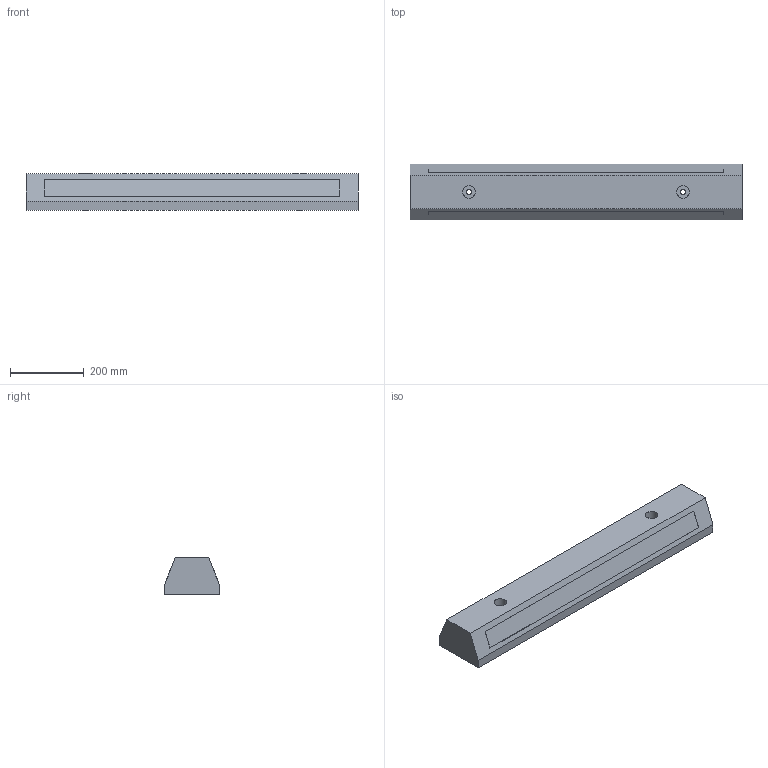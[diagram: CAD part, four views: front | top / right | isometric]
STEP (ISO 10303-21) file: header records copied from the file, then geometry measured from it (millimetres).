
FILE_DESCRIPTION(('FreeCAD Model'),'2;1');
FILE_NAME('Open CASCADE Shape Model','2026-10-04T02:30:11',('FreeCAD'),( 'FreeCAD'),'Open CASCADE STEP processor 7.8','FreeCAD','Unknown');
FILE_SCHEMA(('AUTOMOTIVE_DESIGN { 1 0 10303 214 1 1 1 1 }'));
Length unit declared in the file: millimetre
Products named in the file (1): Open CASCADE STEP translator 7.8 1
Bounding box: 900 x 150 x 100 mm (x, y, z)
Volume: 11439729.1 mm3; surface area: 602994.6 mm2
Topology: 3 solids, 3 shells, 26 faces, 54 edges, 36 vertices
Faces by surface type: plane 22, cylinder 4
Full cylindrical faces by diameter (mm): 14 x2, 34 x2
Entity records: 700 total; most frequent: CARTESIAN_POINT 117, DIRECTION 116, ORIENTED_EDGE 108, EDGE_CURVE 54, LINE 46, VECTOR 46, VERTEX_POINT 36, AXIS2_PLACEMENT_3D 35
